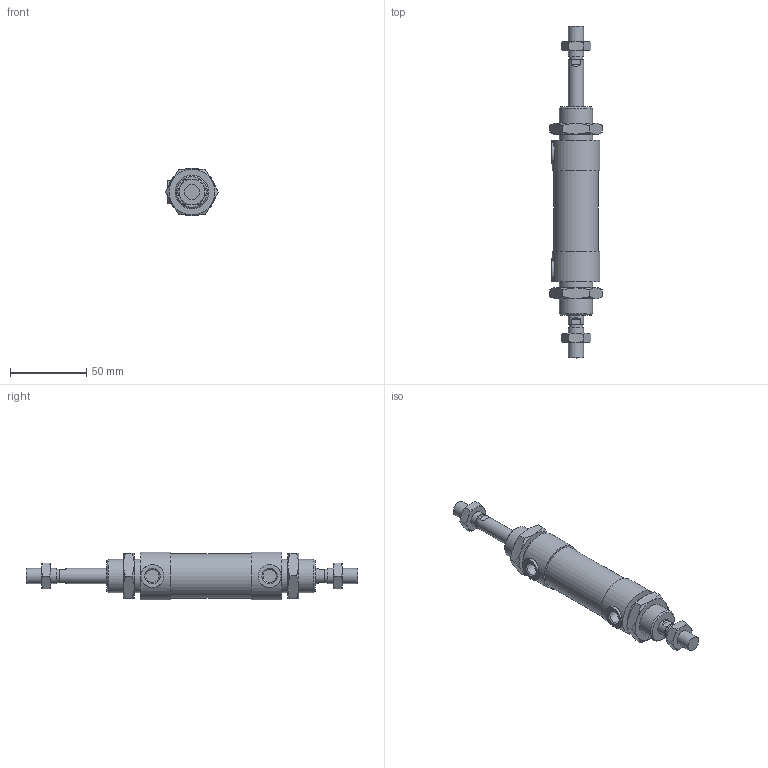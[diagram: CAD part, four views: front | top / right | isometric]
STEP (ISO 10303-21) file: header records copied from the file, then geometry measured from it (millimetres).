
FILE_DESCRIPTION((''),'2;1');
FILE_NAME('L:\Lib-3d\1200\CILINDRI\1232\1232_25_0025.stp','2006-01-05T14:35:54',('medicfa1'),(''),'Autodesk Inventor 10','Autodesk Inventor 10','');
FILE_SCHEMA(('AUTOMOTIVE_DESIGN { 1 0 10303 214 1 1 1 1 }'));
Length unit declared in the file: millimetre
Products named in the file (5): 1232_25_0025; C1232_25_25; S1232_25_25; 1200_25_05; 1200_25_06
Assembly tree (6 placements, depth 2):
  1232_25_0025
    C1232_25_25
    S1232_25_25
    1200_25_05  x2
    1200_25_06  x2
Bounding box: 34.64 x 218 x 31.5 mm (x, y, z)
Volume: 96491 mm3; surface area: 30960.7 mm2
Topology: 6 solids, 6 shells, 141 faces, 299 edges, 178 vertices
Faces by surface type: plane 62, cone 54, cylinder 15, bspline 10
Full cylindrical faces by diameter (mm): 8.7 x2, 8.8 x2, 10 x4, 15 x2, 22 x2, 29 x1, 31.5 x2
Entity records: 2620 total; most frequent: CARTESIAN_POINT 721, DIRECTION 390, ORIENTED_EDGE 324, AXIS2_PLACEMENT_3D 177, EDGE_CURVE 162, EDGE_LOOP 136, VERTEX_POINT 110, FACE_OUTER_BOUND 95
